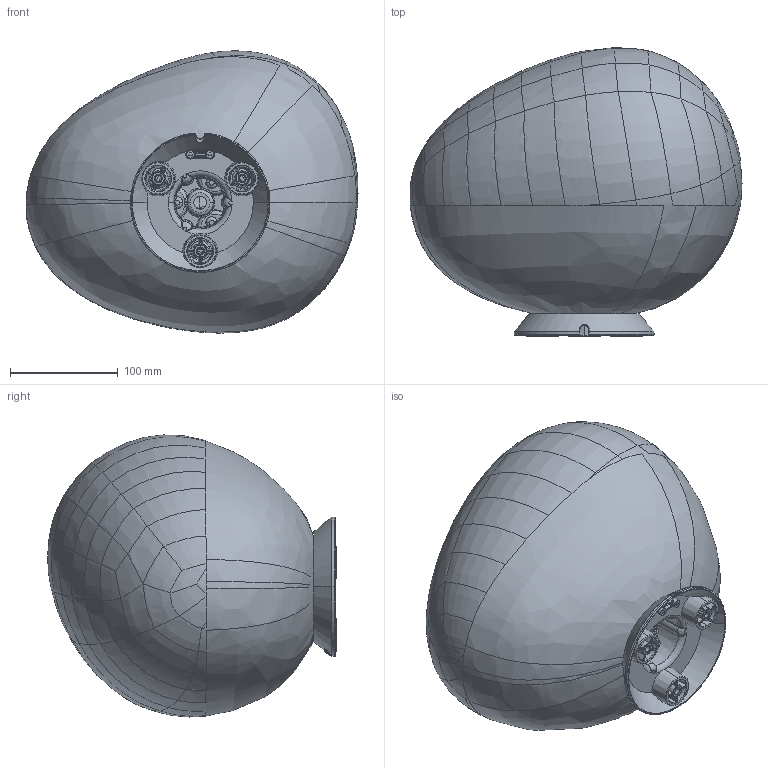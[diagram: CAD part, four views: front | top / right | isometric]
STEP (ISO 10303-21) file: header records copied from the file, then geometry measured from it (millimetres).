
FILE_DESCRIPTION (( 'STEP AP203' ), '1' );
FILE_NAME ('218_MEDIA_OF_PL_3D.STEP', '2021-04-07T14:18:48', ( '' ), ( '' ), 'SwSTEP 2.0', 'SolidWorks 2021', '' );
FILE_SCHEMA (( 'CONFIG_CONTROL_DESIGN' ));
Length unit declared in the file: millimetre
Products named in the file (1): 218_MEDIA_OF_PL_3D
Bounding box: 308.81 x 268.54 x 262.41 mm (x, y, z)
Volume: 1057253.7 mm3; surface area: 534096.8 mm2
Topology: 2 solids, 2 shells, 1034 faces, 2609 edges, 1588 vertices
Faces by surface type: bspline 459, plane 186, torus 155, cone 132, cylinder 59, sphere 43
Entity records: 456284 total; most frequent: CARTESIAN_POINT 435716, ORIENTED_EDGE 5134, DIRECTION 2969, EDGE_CURVE 2567, VERTEX_POINT 1588, B_SPLINE_CURVE_WITH_KNOTS 1443, AXIS2_PLACEMENT_3D 1345, EDGE_LOOP 1093
